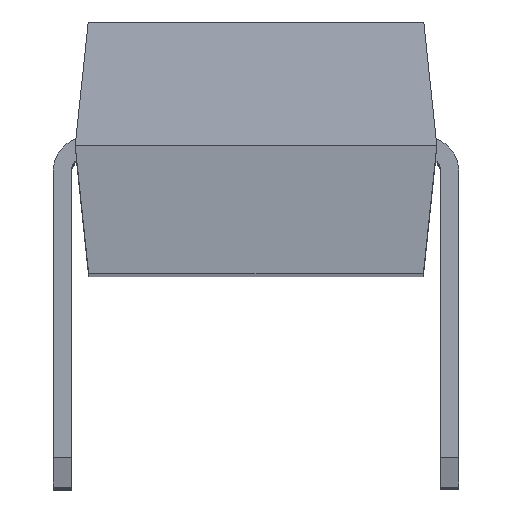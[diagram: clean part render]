
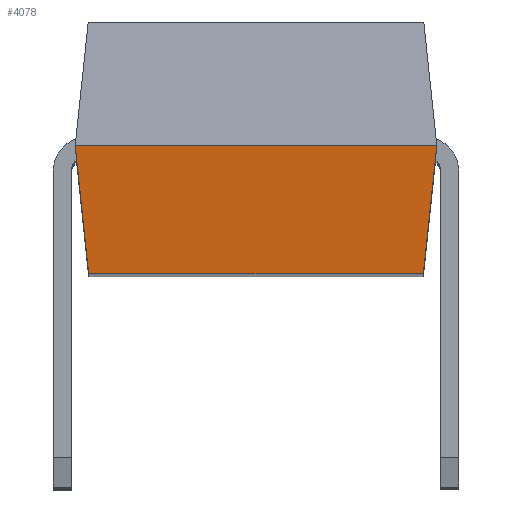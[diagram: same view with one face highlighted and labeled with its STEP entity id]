
A CAD part, top view. The second image highlights one B-rep face of the part: STEP entity #4078.
In plain terms, the highlighted planar face has unit normal (0, -0.104, 0.995).
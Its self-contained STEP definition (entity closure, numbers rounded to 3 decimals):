
#1237 = EDGE_CURVE ( 'NONE', #10783, #9003, #5996, .T. ) ;
#1239 = EDGE_CURVE ( 'NONE', #10784, #10705, #6002, .T. ) ;
#1309 = EDGE_CURVE ( 'NONE', #9003, #10705, #6138, .T. ) ;
#1320 = EDGE_CURVE ( 'NONE', #10784, #10783, #6159, .T. ) ;
#3137 = CARTESIAN_POINT ( 'NONE',  ( -3.556, 2.9, 17.78 ) ) ;
#3138 = DIRECTION ( 'NONE',  ( 1., 0., 0. ) ) ;
#3161 = CARTESIAN_POINT ( 'NONE',  ( -3.556, 0.381, 17.515 ) ) ;
#3162 = DIRECTION ( 'NONE',  ( -1., 0., 0. ) ) ;
#4078 = ADVANCED_FACE ( 'NONE', ( #9310 ), #11640, .T. ) ;
#4768 = AXIS2_PLACEMENT_3D ( 'NONE', #11652, #11653, #11654 ) ;
#5049 = CARTESIAN_POINT ( 'NONE',  ( -3.291, 0.381, 17.515 ) ) ;
#5050 = CARTESIAN_POINT ( 'NONE',  ( 3.291, 0.381, 17.515 ) ) ;
#5996 = LINE ( 'NONE', #7960, #6001 ) ;
#6001 = VECTOR ( 'NONE', #8009, 1000. ) ;
#6002 = LINE ( 'NONE', #7992, #6005 ) ;
#6005 = VECTOR ( 'NONE', #8010, 1000. ) ;
#6138 = LINE ( 'NONE', #3137, #6141 ) ;
#6141 = VECTOR ( 'NONE', #3138, 1000. ) ;
#6159 = LINE ( 'NONE', #3161, #6162 ) ;
#6162 = VECTOR ( 'NONE', #3162, 1000. ) ;
#7367 = CARTESIAN_POINT ( 'NONE',  ( -3.556, 2.9, 17.78 ) ) ;
#7849 = CARTESIAN_POINT ( 'NONE',  ( 3.556, 2.9, 17.78 ) ) ;
#7960 = CARTESIAN_POINT ( 'NONE',  ( -3.556, 2.9, 17.78 ) ) ;
#7992 = CARTESIAN_POINT ( 'NONE',  ( 3.479, 2.169, 17.703 ) ) ;
#8009 = DIRECTION ( 'NONE',  ( -0.104, 0.989, 0.104 ) ) ;
#8010 = DIRECTION ( 'NONE',  ( 0.104, 0.989, 0.104 ) ) ;
#9003 = VERTEX_POINT ( 'NONE', #7367 ) ;
#9310 = FACE_OUTER_BOUND ( 'NONE', #10686, .T. ) ;
#10686 = EDGE_LOOP ( 'NONE', ( #12223, #12324, #12474, #12322 ) ) ;
#10705 = VERTEX_POINT ( 'NONE', #7849 ) ;
#10783 = VERTEX_POINT ( 'NONE', #5049 ) ;
#10784 = VERTEX_POINT ( 'NONE', #5050 ) ;
#11640 = PLANE ( 'NONE',  #4768 ) ;
#11652 = CARTESIAN_POINT ( 'NONE',  ( -3.556, 2.9, 17.78 ) ) ;
#11653 = DIRECTION ( 'NONE',  ( 0., -0.105, 0.995 ) ) ;
#11654 = DIRECTION ( 'NONE',  ( 0., -0.995, -0.105 ) ) ;
#12223 = ORIENTED_EDGE ( 'NONE', *, *, #1320, .F. ) ;
#12322 = ORIENTED_EDGE ( 'NONE', *, *, #1237, .F. ) ;
#12324 = ORIENTED_EDGE ( 'NONE', *, *, #1239, .T. ) ;
#12474 = ORIENTED_EDGE ( 'NONE', *, *, #1309, .F. ) ;
